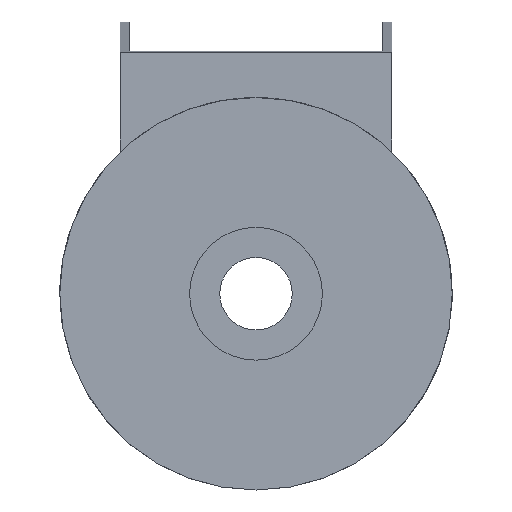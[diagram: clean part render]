
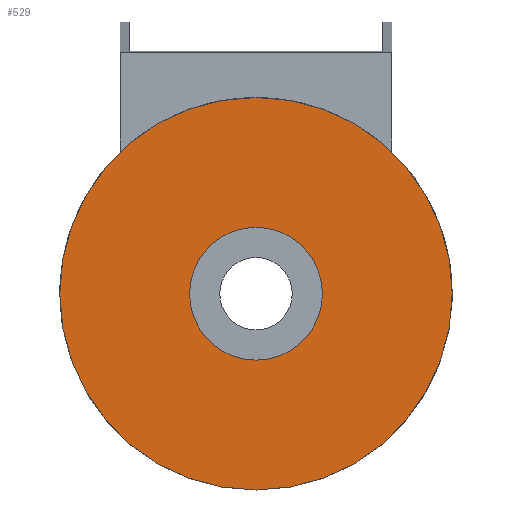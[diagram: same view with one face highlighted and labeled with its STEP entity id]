
A CAD part, front view. The second image highlights one B-rep face of the part: STEP entity #529.
In plain terms, the highlighted planar face has unit normal (0, -1, 0).
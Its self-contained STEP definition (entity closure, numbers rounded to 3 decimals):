
#1=CARTESIAN_POINT('',(0.,0.,0.));
#2=DIRECTION('',(0.,1.,0.));
#3=DIRECTION('',(1.,0.,0.));
#4=AXIS2_PLACEMENT_3D('',#1,#2,#3);
#6=CARTESIAN_POINT('',(0.,0.,0.));
#7=DIRECTION('',(0.,1.,0.));
#8=DIRECTION('',(-1.,0.,0.));
#9=AXIS2_PLACEMENT_3D('',#6,#7,#8);
#11=CARTESIAN_POINT('',(0.,0.,0.));
#12=DIRECTION('',(0.,1.,0.));
#13=DIRECTION('',(1.,0.,0.));
#14=AXIS2_PLACEMENT_3D('',#11,#12,#13);
#16=CARTESIAN_POINT('',(0.,0.,0.));
#17=DIRECTION('',(0.,1.,0.));
#18=DIRECTION('',(-1.,0.,0.));
#19=AXIS2_PLACEMENT_3D('',#16,#17,#18);
#408=CARTESIAN_POINT('',(32.5,0.,0.));
#409=CARTESIAN_POINT('',(-32.5,0.,0.));
#410=VERTEX_POINT('',#408);
#411=VERTEX_POINT('',#409);
#416=CARTESIAN_POINT('',(11.,0.,0.));
#417=VERTEX_POINT('',#416);
#418=CARTESIAN_POINT('',(-11.,0.,0.));
#419=VERTEX_POINT('',#418);
#512=CARTESIAN_POINT('',(0.,0.,0.));
#513=DIRECTION('',(0.,1.,0.));
#514=DIRECTION('',(1.,0.,0.));
#515=AXIS2_PLACEMENT_3D('',#512,#513,#514);
#516=PLANE('',#515);
#518=ORIENTED_EDGE('',*,*,#517,.T.);
#520=ORIENTED_EDGE('',*,*,#519,.T.);
#521=EDGE_LOOP('',(#518,#520));
#522=FACE_OUTER_BOUND('',#521,.F.);
#524=ORIENTED_EDGE('',*,*,#523,.F.);
#526=ORIENTED_EDGE('',*,*,#525,.F.);
#527=EDGE_LOOP('',(#524,#526));
#528=FACE_BOUND('',#527,.F.);
#529=ADVANCED_FACE('',(#522,#528),#516,.F.);
#5=CIRCLE('',#4,32.5);
#10=CIRCLE('',#9,32.5);
#15=CIRCLE('',#14,11.);
#20=CIRCLE('',#19,11.);
#517=EDGE_CURVE('',#410,#411,#5,.T.);
#519=EDGE_CURVE('',#411,#410,#10,.T.);
#523=EDGE_CURVE('',#417,#419,#15,.T.);
#525=EDGE_CURVE('',#419,#417,#20,.T.);
